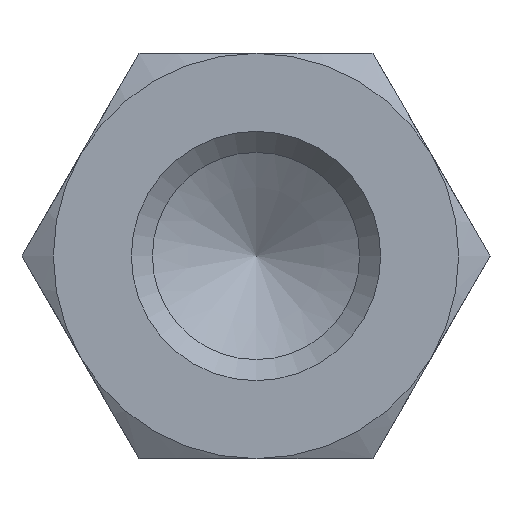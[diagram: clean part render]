
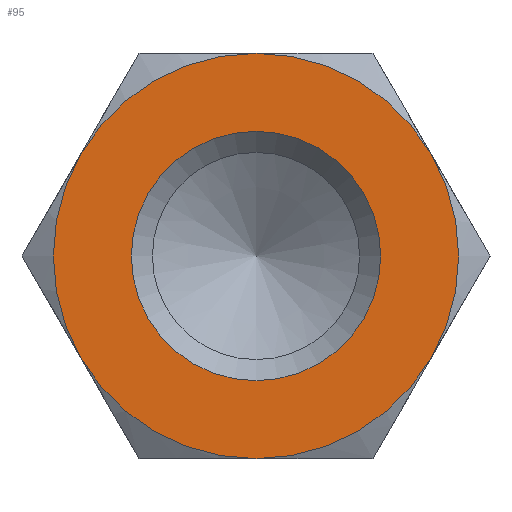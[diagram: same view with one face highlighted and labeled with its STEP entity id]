
A CAD part, left-side view. The second image highlights one B-rep face of the part: STEP entity #95.
In plain terms, the highlighted planar face has unit normal (-1, 0, 0).
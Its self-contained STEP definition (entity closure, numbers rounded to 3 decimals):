
#95 = ADVANCED_FACE( '', ( #147, #148 ), #149, .F. );
#147 = FACE_OUTER_BOUND( '', #206, .T. );
#148 = FACE_BOUND( '', #207, .T. );
#149 = PLANE( '', #208 );
#206 = EDGE_LOOP( '', ( #356, #357, #358, #359, #360, #361 ) );
#207 = EDGE_LOOP( '', ( #362 ) );
#208 = AXIS2_PLACEMENT_3D( '', #363, #364, #365 );
#356 = ORIENTED_EDGE( '', *, *, #440, .F. );
#357 = ORIENTED_EDGE( '', *, *, #425, .F. );
#358 = ORIENTED_EDGE( '', *, *, #441, .F. );
#359 = ORIENTED_EDGE( '', *, *, #437, .F. );
#360 = ORIENTED_EDGE( '', *, *, #442, .F. );
#361 = ORIENTED_EDGE( '', *, *, #443, .F. );
#362 = ORIENTED_EDGE( '', *, *, #439, .T. );
#363 = CARTESIAN_POINT( '', ( -45., 0., 0. ) );
#364 = DIRECTION( '', ( 1., 0., 0. ) );
#365 = DIRECTION( '', ( 0., 0., -1. ) );
#425 = EDGE_CURVE( '', #495, #493, #497, .T. );
#437 = EDGE_CURVE( '', #447, #506, #513, .T. );
#439 = EDGE_CURVE( '', #516, #516, #517, .T. );
#440 = EDGE_CURVE( '', #493, #486, #518, .T. );
#441 = EDGE_CURVE( '', #506, #495, #519, .T. );
#442 = EDGE_CURVE( '', #481, #447, #520, .T. );
#443 = EDGE_CURVE( '', #486, #481, #521, .T. );
#447 = VERTEX_POINT( '', #525 );
#481 = VERTEX_POINT( '', #607 );
#486 = VERTEX_POINT( '', #623 );
#493 = VERTEX_POINT( '', #650 );
#495 = VERTEX_POINT( '', #657 );
#497 = CIRCLE( '', #664, 6.5 );
#506 = VERTEX_POINT( '', #690 );
#513 = CIRCLE( '', #733, 6.5 );
#516 = VERTEX_POINT( '', #736 );
#517 = CIRCLE( '', #737, 4. );
#518 = CIRCLE( '', #738, 6.5 );
#519 = CIRCLE( '', #739, 6.5 );
#520 = CIRCLE( '', #740, 6.5 );
#521 = CIRCLE( '', #741, 6.5 );
#525 = CARTESIAN_POINT( '', ( -45., -5.629, 3.25 ) );
#607 = CARTESIAN_POINT( '', ( -45., 0., 6.5 ) );
#623 = CARTESIAN_POINT( '', ( -45., 5.629, 3.25 ) );
#650 = CARTESIAN_POINT( '', ( -45., 5.629, -3.25 ) );
#657 = CARTESIAN_POINT( '', ( -45., 0., -6.5 ) );
#664 = AXIS2_PLACEMENT_3D( '', #776, #777, #778 );
#690 = CARTESIAN_POINT( '', ( -45., -5.629, -3.25 ) );
#733 = AXIS2_PLACEMENT_3D( '', #781, #782, #783 );
#736 = CARTESIAN_POINT( '', ( -45., 0., -4. ) );
#737 = AXIS2_PLACEMENT_3D( '', #787, #788, #789 );
#738 = AXIS2_PLACEMENT_3D( '', #790, #791, #792 );
#739 = AXIS2_PLACEMENT_3D( '', #793, #794, #795 );
#740 = AXIS2_PLACEMENT_3D( '', #796, #797, #798 );
#741 = AXIS2_PLACEMENT_3D( '', #799, #800, #801 );
#776 = CARTESIAN_POINT( '', ( -45., 0., 0. ) );
#777 = DIRECTION( '', ( 1., 0., 0. ) );
#778 = DIRECTION( '', ( 0., 0., -1. ) );
#781 = CARTESIAN_POINT( '', ( -45., 0., 0. ) );
#782 = DIRECTION( '', ( 1., 0., 0. ) );
#783 = DIRECTION( '', ( 0., 0., -1. ) );
#787 = CARTESIAN_POINT( '', ( -45., 0., 0. ) );
#788 = DIRECTION( '', ( 1., 0., 0. ) );
#789 = DIRECTION( '', ( 0., 0., -1. ) );
#790 = CARTESIAN_POINT( '', ( -45., 0., 0. ) );
#791 = DIRECTION( '', ( 1., 0., 0. ) );
#792 = DIRECTION( '', ( 0., 0., -1. ) );
#793 = CARTESIAN_POINT( '', ( -45., 0., 0. ) );
#794 = DIRECTION( '', ( 1., 0., 0. ) );
#795 = DIRECTION( '', ( 0., 0., -1. ) );
#796 = CARTESIAN_POINT( '', ( -45., 0., 0. ) );
#797 = DIRECTION( '', ( 1., 0., 0. ) );
#798 = DIRECTION( '', ( 0., 0., -1. ) );
#799 = CARTESIAN_POINT( '', ( -45., 0., 0. ) );
#800 = DIRECTION( '', ( 1., 0., 0. ) );
#801 = DIRECTION( '', ( 0., 0., -1. ) );
